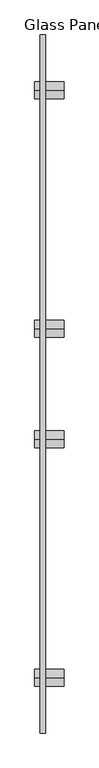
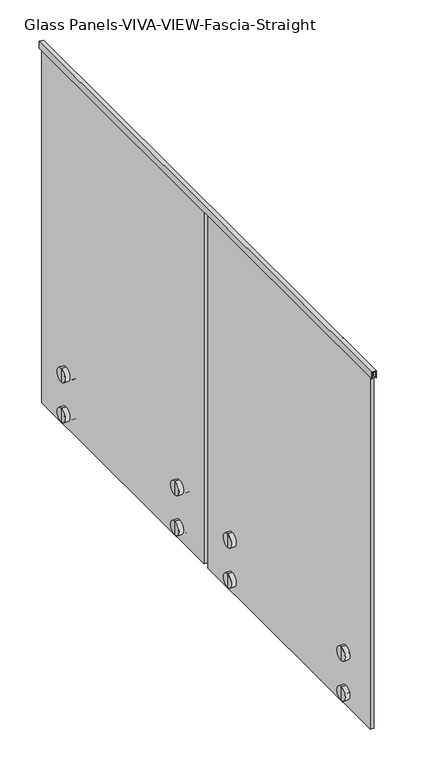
"""IFC4 building model written with IfcOpenShell, lengths in millimetres: railing geometry, Glass Panels-VIVA-VIEW-Fascia-Straight."""

from ifc_helpers import new_model, si_unit, frame, origin, place, context, project, spatial, polyline, circle_curve, outline, extrude, source, transform, mapped, element, save
from ifc_brep_helpers import plane_surface, cylinder_surface, advanced_brep


def glass_panels_viva_view_fascia_straight_b6d9fe15(model_context):
    return source(origin(), model_context, "Body", "SolidModel", [
        extrude(outline(polyline([(4140.2, 20983.1986652), (4140.2, 20967.3236652), (4114.8, 20967.3236652), (4114.8, 20968.9111652), (4138.6125, 20968.9111652), (4138.6125, 20981.6111652), (4114.8, 20981.6111652), (4114.8, 20983.1986652), (4140.2, 20983.1986652)])), frame((0.0, -1445.1241246, 0.0), z_axis=(0.0, 1.0, 0.0), x_axis=(0.0, 0.0, 1.0)), (0.0, 0.0, 1.0), 2082.8),
        advanced_brep(
        [(20951.4489592, -238.241078, 2794.0), (20951.4489592, -238.241078, 2819.4), (20951.4489592, -238.241078, 2844.8), (20968.9114592, -238.241078, 2794.0), (20968.9114592, -238.241078, 2844.8), (20968.9114592, -238.241078, 2813.685), (20968.9114592, -238.241078, 2825.115), (20981.6114592, -238.241078, 2813.685), (20981.6114592, -238.241078, 2825.115), (20981.6114592, -238.241078, 2794.0), (20981.6114592, -238.241078, 2844.8), (21038.7613122, -238.241078, 2794.0), (21038.7613122, -238.241078, 2844.8), (21038.7613122, -238.241078, 2819.4)],
        [
            (0, 1),
            (1, 2),
            (2, 0, circle_curve(frame((20951.4489592, -238.241078, 2819.4), z_axis=(-1.0, 0.0, 0.0), x_axis=(0.0, 0.0, 1.0)), 25.4)),
            (0, 2, circle_curve(frame((20951.4489592, -238.241078, 2819.4), z_axis=(-1.0, 0.0, 0.0), x_axis=(0.0, 0.0, 1.0)), 25.4)),
            (3, 0),
            (2, 4),
            (4, 3, circle_curve(frame((20968.9114592, -238.241078, 2819.4), z_axis=(-1.0, 0.0, 0.0), x_axis=(0.0, 0.0, 1.0)), 25.4)),
            (3, 4, circle_curve(frame((20968.9114592, -238.241078, 2819.4), z_axis=(-1.0, 0.0, 0.0), x_axis=(0.0, 0.0, 1.0)), 25.4)),
            (5, 3),
            (4, 6),
            (6, 5, circle_curve(frame((20968.9114592, -238.241078, 2819.4), z_axis=(-1.0, 0.0, 0.0), x_axis=(0.0, 0.0, 1.0)), 5.715)),
            (5, 6, circle_curve(frame((20968.9114592, -238.241078, 2819.4), z_axis=(-1.0, 0.0, 0.0), x_axis=(0.0, 0.0, 1.0)), 5.715)),
            (7, 5),
            (6, 8),
            (8, 7, circle_curve(frame((20981.6114592, -238.241078, 2819.4), z_axis=(-1.0, 0.0, 0.0), x_axis=(0.0, 0.0, 1.0)), 5.715)),
            (7, 8, circle_curve(frame((20981.6114592, -238.241078, 2819.4), z_axis=(-1.0, 0.0, 0.0), x_axis=(0.0, 0.0, 1.0)), 5.715)),
            (9, 7),
            (8, 10),
            (10, 9, circle_curve(frame((20981.6114592, -238.241078, 2819.4), z_axis=(-1.0, 0.0, 0.0), x_axis=(0.0, 0.0, 1.0)), 25.4)),
            (9, 10, circle_curve(frame((20981.6114592, -238.241078, 2819.4), z_axis=(-1.0, 0.0, 0.0), x_axis=(0.0, 0.0, 1.0)), 25.4)),
            (11, 9),
            (10, 12),
            (12, 11, circle_curve(frame((21038.7613122, -238.241078, 2819.4), z_axis=(-1.0, 0.0, 0.0), x_axis=(0.0, 0.0, 1.0)), 25.4)),
            (11, 12, circle_curve(frame((21038.7613122, -238.241078, 2819.4), z_axis=(-1.0, 0.0, 0.0), x_axis=(0.0, 0.0, 1.0)), 25.4)),
            (13, 11),
            (12, 13),
        ],
        [
            plane_surface(frame((20951.4489592, -238.241078, 2819.4), z_axis=(-1.0, 0.0, 0.0), x_axis=(0.0, 0.0, 1.0))),
            cylinder_surface(frame((20883.1863122, -238.241078, 2819.4), z_axis=(1.0, 0.0, 0.0), x_axis=(0.0, 0.0, 1.0)), 25.4),
            plane_surface(frame((20968.9114592, -238.241078, 2819.4), z_axis=(1.0, 0.0, 0.0), x_axis=(0.0, 0.0, 1.0))),
            cylinder_surface(frame((20883.1863122, -238.241078, 2819.4), z_axis=(1.0, 0.0, 0.0), x_axis=(0.0, 0.0, 1.0)), 5.715),
            plane_surface(frame((20981.6114592, -238.241078, 2819.4), z_axis=(-1.0, 0.0, 0.0), x_axis=(0.0, 0.0, 1.0))),
            plane_surface(frame((21038.7613122, -238.241078, 2819.4), z_axis=(1.0, 0.0, 0.0), x_axis=(0.0, 0.0, 1.0))),
        ],
        [
            (0, [[1, 2, 3]]),
            (0, [[-2, -1, 4]]),
            (1, [[5, -3, 6, 7]]),
            (1, [[-6, -4, -5, 8]]),
            (2, [[9, -7, 10, 11]]),
            (2, [[-10, -8, -9, 12]]),
            (3, [[13, -11, 14, 15]]),
            (3, [[-14, -12, -13, 16]]),
            (4, [[17, -15, 18, 19]]),
            (4, [[-18, -16, -17, 20]]),
            (1, [[21, -19, 22, 23]]),
            (1, [[-22, -20, -21, 24]]),
            (5, [[25, -23, 26]]),
            (5, [[-26, -24, -25]]),
        ],
    ),
        advanced_brep(
        [(20968.9114592, -238.241078, 2966.085), (20968.9114592, -238.241078, 2946.4), (20968.9114592, -238.241078, 2997.2), (20968.9114592, -238.241078, 2977.515), (20981.6114592, -238.241078, 2966.085), (20981.6114592, -238.241078, 2977.515), (20981.6114592, -238.241078, 2946.4), (20981.6114592, -238.241078, 2997.2), (21038.7613122, -238.241078, 2946.4), (21038.7613122, -238.241078, 2997.2), (21038.7613122, -238.241078, 2971.8), (20951.4489592, -238.241078, 2946.4), (20951.4489592, -238.241078, 2971.8), (20951.4489592, -238.241078, 2997.2)],
        [
            (0, 1),
            (1, 2, circle_curve(frame((20968.9114592, -238.241078, 2971.8), z_axis=(1.0, 0.0, 0.0), x_axis=(0.0, 0.0, 1.0)), 25.4)),
            (2, 3),
            (3, 0, circle_curve(frame((20968.9114592, -238.241078, 2971.8), z_axis=(-1.0, 0.0, 0.0), x_axis=(0.0, 0.0, 1.0)), 5.715)),
            (2, 1, circle_curve(frame((20968.9114592, -238.241078, 2971.8), z_axis=(1.0, 0.0, 0.0), x_axis=(0.0, 0.0, 1.0)), 25.4)),
            (0, 3, circle_curve(frame((20968.9114592, -238.241078, 2971.8), z_axis=(-1.0, 0.0, 0.0), x_axis=(0.0, 0.0, 1.0)), 5.715)),
            (4, 0),
            (3, 5),
            (5, 4, circle_curve(frame((20981.6114592, -238.241078, 2971.8), z_axis=(-1.0, 0.0, 0.0), x_axis=(0.0, 0.0, 1.0)), 5.715)),
            (4, 5, circle_curve(frame((20981.6114592, -238.241078, 2971.8), z_axis=(-1.0, 0.0, 0.0), x_axis=(0.0, 0.0, 1.0)), 5.715)),
            (6, 4),
            (5, 7),
            (7, 6, circle_curve(frame((20981.6114592, -238.241078, 2971.8), z_axis=(-1.0, 0.0, 0.0), x_axis=(0.0, 0.0, 1.0)), 25.4)),
            (6, 7, circle_curve(frame((20981.6114592, -238.241078, 2971.8), z_axis=(-1.0, 0.0, 0.0), x_axis=(0.0, 0.0, 1.0)), 25.4)),
            (8, 6),
            (7, 9),
            (9, 8, circle_curve(frame((21038.7613122, -238.241078, 2971.8), z_axis=(-1.0, 0.0, 0.0), x_axis=(0.0, 0.0, 1.0)), 25.4)),
            (8, 9, circle_curve(frame((21038.7613122, -238.241078, 2971.8), z_axis=(-1.0, 0.0, 0.0), x_axis=(0.0, 0.0, 1.0)), 25.4)),
            (10, 8),
            (9, 10),
            (11, 12),
            (12, 13),
            (13, 11, circle_curve(frame((20951.4489592, -238.241078, 2971.8), z_axis=(-1.0, 0.0, 0.0), x_axis=(0.0, 0.0, 1.0)), 25.4)),
            (11, 13, circle_curve(frame((20951.4489592, -238.241078, 2971.8), z_axis=(-1.0, 0.0, 0.0), x_axis=(0.0, 0.0, 1.0)), 25.4)),
            (1, 11),
            (13, 2),
        ],
        [
            plane_surface(frame((20968.9114592, -238.241078, 2971.8), z_axis=(1.0, 0.0, 0.0), x_axis=(0.0, 0.0, 1.0))),
            cylinder_surface(frame((20883.1863122, -238.241078, 2971.8), z_axis=(1.0, 0.0, 0.0), x_axis=(0.0, 0.0, 1.0)), 5.715),
            plane_surface(frame((20981.6114592, -238.241078, 2971.8), z_axis=(-1.0, 0.0, 0.0), x_axis=(0.0, 0.0, 1.0))),
            cylinder_surface(frame((20883.1863122, -238.241078, 2971.8), z_axis=(1.0, 0.0, 0.0), x_axis=(0.0, 0.0, 1.0)), 25.4),
            plane_surface(frame((21038.7613122, -238.241078, 2971.8), z_axis=(1.0, 0.0, 0.0), x_axis=(0.0, 0.0, 1.0))),
            plane_surface(frame((20951.4489592, -238.241078, 2971.8), z_axis=(-1.0, 0.0, 0.0), x_axis=(0.0, 0.0, 1.0))),
        ],
        [
            (0, [[1, 2, 3, 4]]),
            (0, [[-3, 5, -1, 6]]),
            (1, [[7, -4, 8, 9]]),
            (1, [[-8, -6, -7, 10]]),
            (2, [[11, -9, 12, 13]]),
            (2, [[-12, -10, -11, 14]]),
            (3, [[15, -13, 16, 17]]),
            (3, [[-16, -14, -15, 18]]),
            (4, [[19, -17, 20]]),
            (4, [[-20, -18, -19]]),
            (5, [[21, 22, 23]]),
            (5, [[-22, -21, 24]]),
            (3, [[25, -23, 26, -2]]),
            (3, [[-26, -24, -25, -5]]),
        ],
    ),
        advanced_brep(
        [(20951.4489592, 472.958922, 2794.0), (20951.4489592, 472.958922, 2819.4), (20951.4489592, 472.958922, 2844.8), (20968.9114592, 472.958922, 2794.0), (20968.9114592, 472.958922, 2844.8), (20968.9114592, 472.958922, 2813.685), (20968.9114592, 472.958922, 2825.115), (20981.6114592, 472.958922, 2813.685), (20981.6114592, 472.958922, 2825.115), (20981.6114592, 472.958922, 2794.0), (20981.6114592, 472.958922, 2844.8), (21038.7613122, 472.958922, 2794.0), (21038.7613122, 472.958922, 2844.8), (21038.7613122, 472.958922, 2819.4)],
        [
            (0, 1),
            (1, 2),
            (2, 0, circle_curve(frame((20951.4489592, 472.958922, 2819.4), z_axis=(-1.0, 0.0, 0.0), x_axis=(0.0, 0.0, 1.0)), 25.4)),
            (0, 2, circle_curve(frame((20951.4489592, 472.958922, 2819.4), z_axis=(-1.0, 0.0, 0.0), x_axis=(0.0, 0.0, 1.0)), 25.4)),
            (3, 0),
            (2, 4),
            (4, 3, circle_curve(frame((20968.9114592, 472.958922, 2819.4), z_axis=(-1.0, 0.0, 0.0), x_axis=(0.0, 0.0, 1.0)), 25.4)),
            (3, 4, circle_curve(frame((20968.9114592, 472.958922, 2819.4), z_axis=(-1.0, 0.0, 0.0), x_axis=(0.0, 0.0, 1.0)), 25.4)),
            (5, 3),
            (4, 6),
            (6, 5, circle_curve(frame((20968.9114592, 472.958922, 2819.4), z_axis=(-1.0, 0.0, 0.0), x_axis=(0.0, 0.0, 1.0)), 5.715)),
            (5, 6, circle_curve(frame((20968.9114592, 472.958922, 2819.4), z_axis=(-1.0, 0.0, 0.0), x_axis=(0.0, 0.0, 1.0)), 5.715)),
            (7, 5),
            (6, 8),
            (8, 7, circle_curve(frame((20981.6114592, 472.958922, 2819.4), z_axis=(-1.0, 0.0, 0.0), x_axis=(0.0, 0.0, 1.0)), 5.715)),
            (7, 8, circle_curve(frame((20981.6114592, 472.958922, 2819.4), z_axis=(-1.0, 0.0, 0.0), x_axis=(0.0, 0.0, 1.0)), 5.715)),
            (9, 7),
            (8, 10),
            (10, 9, circle_curve(frame((20981.6114592, 472.958922, 2819.4), z_axis=(-1.0, 0.0, 0.0), x_axis=(0.0, 0.0, 1.0)), 25.4)),
            (9, 10, circle_curve(frame((20981.6114592, 472.958922, 2819.4), z_axis=(-1.0, 0.0, 0.0), x_axis=(0.0, 0.0, 1.0)), 25.4)),
            (11, 9),
            (10, 12),
            (12, 11, circle_curve(frame((21038.7613122, 472.958922, 2819.4), z_axis=(-1.0, 0.0, 0.0), x_axis=(0.0, 0.0, 1.0)), 25.4)),
            (11, 12, circle_curve(frame((21038.7613122, 472.958922, 2819.4), z_axis=(-1.0, 0.0, 0.0), x_axis=(0.0, 0.0, 1.0)), 25.4)),
            (13, 11),
            (12, 13),
        ],
        [
            plane_surface(frame((20951.4489592, 472.958922, 2819.4), z_axis=(-1.0, 0.0, 0.0), x_axis=(0.0, 0.0, 1.0))),
            cylinder_surface(frame((20883.1863122, 472.958922, 2819.4), z_axis=(1.0, 0.0, 0.0), x_axis=(0.0, 0.0, 1.0)), 25.4),
            plane_surface(frame((20968.9114592, 472.958922, 2819.4), z_axis=(1.0, 0.0, 0.0), x_axis=(0.0, 0.0, 1.0))),
            cylinder_surface(frame((20883.1863122, 472.958922, 2819.4), z_axis=(1.0, 0.0, 0.0), x_axis=(0.0, 0.0, 1.0)), 5.715),
            plane_surface(frame((20981.6114592, 472.958922, 2819.4), z_axis=(-1.0, 0.0, 0.0), x_axis=(0.0, 0.0, 1.0))),
            plane_surface(frame((21038.7613122, 472.958922, 2819.4), z_axis=(1.0, 0.0, 0.0), x_axis=(0.0, 0.0, 1.0))),
        ],
        [
            (0, [[1, 2, 3]]),
            (0, [[-2, -1, 4]]),
            (1, [[5, -3, 6, 7]]),
            (1, [[-6, -4, -5, 8]]),
            (2, [[9, -7, 10, 11]]),
            (2, [[-10, -8, -9, 12]]),
            (3, [[13, -11, 14, 15]]),
            (3, [[-14, -12, -13, 16]]),
            (4, [[17, -15, 18, 19]]),
            (4, [[-18, -16, -17, 20]]),
            (1, [[21, -19, 22, 23]]),
            (1, [[-22, -20, -21, 24]]),
            (5, [[25, -23, 26]]),
            (5, [[-26, -24, -25]]),
        ],
    ),
        advanced_brep(
        [(20968.9114592, 472.958922, 2966.085), (20968.9114592, 472.958922, 2946.4), (20968.9114592, 472.958922, 2997.2), (20968.9114592, 472.958922, 2977.515), (20981.6114592, 472.958922, 2966.085), (20981.6114592, 472.958922, 2977.515), (20981.6114592, 472.958922, 2946.4), (20981.6114592, 472.958922, 2997.2), (21038.7613122, 472.958922, 2946.4), (21038.7613122, 472.958922, 2997.2), (21038.7613122, 472.958922, 2971.8), (20951.4489592, 472.958922, 2946.4), (20951.4489592, 472.958922, 2971.8), (20951.4489592, 472.958922, 2997.2)],
        [
            (0, 1),
            (1, 2, circle_curve(frame((20968.9114592, 472.958922, 2971.8), z_axis=(1.0, 0.0, 0.0), x_axis=(0.0, 0.0, 1.0)), 25.4)),
            (2, 3),
            (3, 0, circle_curve(frame((20968.9114592, 472.958922, 2971.8), z_axis=(-1.0, 0.0, 0.0), x_axis=(0.0, 0.0, 1.0)), 5.715)),
            (2, 1, circle_curve(frame((20968.9114592, 472.958922, 2971.8), z_axis=(1.0, 0.0, 0.0), x_axis=(0.0, 0.0, 1.0)), 25.4)),
            (0, 3, circle_curve(frame((20968.9114592, 472.958922, 2971.8), z_axis=(-1.0, 0.0, 0.0), x_axis=(0.0, 0.0, 1.0)), 5.715)),
            (4, 0),
            (3, 5),
            (5, 4, circle_curve(frame((20981.6114592, 472.958922, 2971.8), z_axis=(-1.0, 0.0, 0.0), x_axis=(0.0, 0.0, 1.0)), 5.715)),
            (4, 5, circle_curve(frame((20981.6114592, 472.958922, 2971.8), z_axis=(-1.0, 0.0, 0.0), x_axis=(0.0, 0.0, 1.0)), 5.715)),
            (6, 4),
            (5, 7),
            (7, 6, circle_curve(frame((20981.6114592, 472.958922, 2971.8), z_axis=(-1.0, 0.0, 0.0), x_axis=(0.0, 0.0, 1.0)), 25.4)),
            (6, 7, circle_curve(frame((20981.6114592, 472.958922, 2971.8), z_axis=(-1.0, 0.0, 0.0), x_axis=(0.0, 0.0, 1.0)), 25.4)),
            (8, 6),
            (7, 9),
            (9, 8, circle_curve(frame((21038.7613122, 472.958922, 2971.8), z_axis=(-1.0, 0.0, 0.0), x_axis=(0.0, 0.0, 1.0)), 25.4)),
            (8, 9, circle_curve(frame((21038.7613122, 472.958922, 2971.8), z_axis=(-1.0, 0.0, 0.0), x_axis=(0.0, 0.0, 1.0)), 25.4)),
            (10, 8),
            (9, 10),
            (11, 12),
            (12, 13),
            (13, 11, circle_curve(frame((20951.4489592, 472.958922, 2971.8), z_axis=(-1.0, 0.0, 0.0), x_axis=(0.0, 0.0, 1.0)), 25.4)),
            (11, 13, circle_curve(frame((20951.4489592, 472.958922, 2971.8), z_axis=(-1.0, 0.0, 0.0), x_axis=(0.0, 0.0, 1.0)), 25.4)),
            (1, 11),
            (13, 2),
        ],
        [
            plane_surface(frame((20968.9114592, 472.958922, 2971.8), z_axis=(1.0, 0.0, 0.0), x_axis=(0.0, 0.0, 1.0))),
            cylinder_surface(frame((20883.1863122, 472.958922, 2971.8), z_axis=(1.0, 0.0, 0.0), x_axis=(0.0, 0.0, 1.0)), 5.715),
            plane_surface(frame((20981.6114592, 472.958922, 2971.8), z_axis=(-1.0, 0.0, 0.0), x_axis=(0.0, 0.0, 1.0))),
            cylinder_surface(frame((20883.1863122, 472.958922, 2971.8), z_axis=(1.0, 0.0, 0.0), x_axis=(0.0, 0.0, 1.0)), 25.4),
            plane_surface(frame((21038.7613122, 472.958922, 2971.8), z_axis=(1.0, 0.0, 0.0), x_axis=(0.0, 0.0, 1.0))),
            plane_surface(frame((20951.4489592, 472.958922, 2971.8), z_axis=(-1.0, 0.0, 0.0), x_axis=(0.0, 0.0, 1.0))),
        ],
        [
            (0, [[1, 2, 3, 4]]),
            (0, [[-3, 5, -1, 6]]),
            (1, [[7, -4, 8, 9]]),
            (1, [[-8, -6, -7, 10]]),
            (2, [[11, -9, 12, 13]]),
            (2, [[-12, -10, -11, 14]]),
            (3, [[15, -13, 16, 17]]),
            (3, [[-16, -14, -15, 18]]),
            (4, [[19, -17, 20]]),
            (4, [[-20, -18, -19]]),
            (5, [[21, 22, 23]]),
            (5, [[-22, -21, 24]]),
            (3, [[25, -23, 26, -2]]),
            (3, [[-26, -24, -25, -5]]),
        ],
    ),
        extrude(outline(polyline([(20981.6111652, -390.641078), (20968.9111652, -390.641078), (20968.9111652, 625.358922), (20981.6111652, 625.358922), (20981.6111652, -390.641078)])), frame((0.0, 0.0, 2768.6), z_axis=(0.0, 0.0, 1.0), x_axis=(1.0, 0.0, 0.0)), (0.0, 0.0, 1.0), 1370.0125),
        advanced_brep(
        [(20951.4489592, -1279.641078, 2794.0), (20951.4489592, -1279.641078, 2819.4), (20951.4489592, -1279.641078, 2844.8), (20968.9114592, -1279.641078, 2794.0), (20968.9114592, -1279.641078, 2844.8), (20968.9114592, -1279.641078, 2813.685), (20968.9114592, -1279.641078, 2825.115), (20981.6114592, -1279.641078, 2813.685), (20981.6114592, -1279.641078, 2825.115), (20981.6114592, -1279.641078, 2794.0), (20981.6114592, -1279.641078, 2844.8), (21038.7613122, -1279.641078, 2794.0), (21038.7613122, -1279.641078, 2844.8), (21038.7613122, -1279.641078, 2819.4)],
        [
            (0, 1),
            (1, 2),
            (2, 0, circle_curve(frame((20951.4489592, -1279.641078, 2819.4), z_axis=(-1.0, 0.0, 0.0), x_axis=(0.0, 0.0, 1.0)), 25.4)),
            (0, 2, circle_curve(frame((20951.4489592, -1279.641078, 2819.4), z_axis=(-1.0, 0.0, 0.0), x_axis=(0.0, 0.0, 1.0)), 25.4)),
            (3, 0),
            (2, 4),
            (4, 3, circle_curve(frame((20968.9114592, -1279.641078, 2819.4), z_axis=(-1.0, 0.0, 0.0), x_axis=(0.0, 0.0, 1.0)), 25.4)),
            (3, 4, circle_curve(frame((20968.9114592, -1279.641078, 2819.4), z_axis=(-1.0, 0.0, 0.0), x_axis=(0.0, 0.0, 1.0)), 25.4)),
            (5, 3),
            (4, 6),
            (6, 5, circle_curve(frame((20968.9114592, -1279.641078, 2819.4), z_axis=(-1.0, 0.0, 0.0), x_axis=(0.0, 0.0, 1.0)), 5.715)),
            (5, 6, circle_curve(frame((20968.9114592, -1279.641078, 2819.4), z_axis=(-1.0, 0.0, 0.0), x_axis=(0.0, 0.0, 1.0)), 5.715)),
            (7, 5),
            (6, 8),
            (8, 7, circle_curve(frame((20981.6114592, -1279.641078, 2819.4), z_axis=(-1.0, 0.0, 0.0), x_axis=(0.0, 0.0, 1.0)), 5.715)),
            (7, 8, circle_curve(frame((20981.6114592, -1279.641078, 2819.4), z_axis=(-1.0, 0.0, 0.0), x_axis=(0.0, 0.0, 1.0)), 5.715)),
            (9, 7),
            (8, 10),
            (10, 9, circle_curve(frame((20981.6114592, -1279.641078, 2819.4), z_axis=(-1.0, 0.0, 0.0), x_axis=(0.0, 0.0, 1.0)), 25.4)),
            (9, 10, circle_curve(frame((20981.6114592, -1279.641078, 2819.4), z_axis=(-1.0, 0.0, 0.0), x_axis=(0.0, 0.0, 1.0)), 25.4)),
            (11, 9),
            (10, 12),
            (12, 11, circle_curve(frame((21038.7613122, -1279.641078, 2819.4), z_axis=(-1.0, 0.0, 0.0), x_axis=(0.0, 0.0, 1.0)), 25.4)),
            (11, 12, circle_curve(frame((21038.7613122, -1279.641078, 2819.4), z_axis=(-1.0, 0.0, 0.0), x_axis=(0.0, 0.0, 1.0)), 25.4)),
            (13, 11),
            (12, 13),
        ],
        [
            plane_surface(frame((20951.4489592, -1279.641078, 2819.4), z_axis=(-1.0, 0.0, 0.0), x_axis=(0.0, 0.0, 1.0))),
            cylinder_surface(frame((20883.1863122, -1279.641078, 2819.4), z_axis=(1.0, 0.0, 0.0), x_axis=(0.0, 0.0, 1.0)), 25.4),
            plane_surface(frame((20968.9114592, -1279.641078, 2819.4), z_axis=(1.0, 0.0, 0.0), x_axis=(0.0, 0.0, 1.0))),
            cylinder_surface(frame((20883.1863122, -1279.641078, 2819.4), z_axis=(1.0, 0.0, 0.0), x_axis=(0.0, 0.0, 1.0)), 5.715),
            plane_surface(frame((20981.6114592, -1279.641078, 2819.4), z_axis=(-1.0, 0.0, 0.0), x_axis=(0.0, 0.0, 1.0))),
            plane_surface(frame((21038.7613122, -1279.641078, 2819.4), z_axis=(1.0, 0.0, 0.0), x_axis=(0.0, 0.0, 1.0))),
        ],
        [
            (0, [[1, 2, 3]]),
            (0, [[-2, -1, 4]]),
            (1, [[5, -3, 6, 7]]),
            (1, [[-6, -4, -5, 8]]),
            (2, [[9, -7, 10, 11]]),
            (2, [[-10, -8, -9, 12]]),
            (3, [[13, -11, 14, 15]]),
            (3, [[-14, -12, -13, 16]]),
            (4, [[17, -15, 18, 19]]),
            (4, [[-18, -16, -17, 20]]),
            (1, [[21, -19, 22, 23]]),
            (1, [[-22, -20, -21, 24]]),
            (5, [[25, -23, 26]]),
            (5, [[-26, -24, -25]]),
        ],
    ),
        advanced_brep(
        [(20968.9114592, -1279.641078, 2966.085), (20968.9114592, -1279.641078, 2946.4), (20968.9114592, -1279.641078, 2997.2), (20968.9114592, -1279.641078, 2977.515), (20981.6114592, -1279.641078, 2966.085), (20981.6114592, -1279.641078, 2977.515), (20981.6114592, -1279.641078, 2946.4), (20981.6114592, -1279.641078, 2997.2), (21038.7613122, -1279.641078, 2946.4), (21038.7613122, -1279.641078, 2997.2), (21038.7613122, -1279.641078, 2971.8), (20951.4489592, -1279.641078, 2946.4), (20951.4489592, -1279.641078, 2971.8), (20951.4489592, -1279.641078, 2997.2)],
        [
            (0, 1),
            (1, 2, circle_curve(frame((20968.9114592, -1279.641078, 2971.8), z_axis=(1.0, 0.0, 0.0), x_axis=(0.0, 0.0, 1.0)), 25.4)),
            (2, 3),
            (3, 0, circle_curve(frame((20968.9114592, -1279.641078, 2971.8), z_axis=(-1.0, 0.0, 0.0), x_axis=(0.0, 0.0, 1.0)), 5.715)),
            (2, 1, circle_curve(frame((20968.9114592, -1279.641078, 2971.8), z_axis=(1.0, 0.0, 0.0), x_axis=(0.0, 0.0, 1.0)), 25.4)),
            (0, 3, circle_curve(frame((20968.9114592, -1279.641078, 2971.8), z_axis=(-1.0, 0.0, 0.0), x_axis=(0.0, 0.0, 1.0)), 5.715)),
            (4, 0),
            (3, 5),
            (5, 4, circle_curve(frame((20981.6114592, -1279.641078, 2971.8), z_axis=(-1.0, 0.0, 0.0), x_axis=(0.0, 0.0, 1.0)), 5.715)),
            (4, 5, circle_curve(frame((20981.6114592, -1279.641078, 2971.8), z_axis=(-1.0, 0.0, 0.0), x_axis=(0.0, 0.0, 1.0)), 5.715)),
            (6, 4),
            (5, 7),
            (7, 6, circle_curve(frame((20981.6114592, -1279.641078, 2971.8), z_axis=(-1.0, 0.0, 0.0), x_axis=(0.0, 0.0, 1.0)), 25.4)),
            (6, 7, circle_curve(frame((20981.6114592, -1279.641078, 2971.8), z_axis=(-1.0, 0.0, 0.0), x_axis=(0.0, 0.0, 1.0)), 25.4)),
            (8, 6),
            (7, 9),
            (9, 8, circle_curve(frame((21038.7613122, -1279.641078, 2971.8), z_axis=(-1.0, 0.0, 0.0), x_axis=(0.0, 0.0, 1.0)), 25.4)),
            (8, 9, circle_curve(frame((21038.7613122, -1279.641078, 2971.8), z_axis=(-1.0, 0.0, 0.0), x_axis=(0.0, 0.0, 1.0)), 25.4)),
            (10, 8),
            (9, 10),
            (11, 12),
            (12, 13),
            (13, 11, circle_curve(frame((20951.4489592, -1279.641078, 2971.8), z_axis=(-1.0, 0.0, 0.0), x_axis=(0.0, 0.0, 1.0)), 25.4)),
            (11, 13, circle_curve(frame((20951.4489592, -1279.641078, 2971.8), z_axis=(-1.0, 0.0, 0.0), x_axis=(0.0, 0.0, 1.0)), 25.4)),
            (1, 11),
            (13, 2),
        ],
        [
            plane_surface(frame((20968.9114592, -1279.641078, 2971.8), z_axis=(1.0, 0.0, 0.0), x_axis=(0.0, 0.0, 1.0))),
            cylinder_surface(frame((20883.1863122, -1279.641078, 2971.8), z_axis=(1.0, 0.0, 0.0), x_axis=(0.0, 0.0, 1.0)), 5.715),
            plane_surface(frame((20981.6114592, -1279.641078, 2971.8), z_axis=(-1.0, 0.0, 0.0), x_axis=(0.0, 0.0, 1.0))),
            cylinder_surface(frame((20883.1863122, -1279.641078, 2971.8), z_axis=(1.0, 0.0, 0.0), x_axis=(0.0, 0.0, 1.0)), 25.4),
            plane_surface(frame((21038.7613122, -1279.641078, 2971.8), z_axis=(1.0, 0.0, 0.0), x_axis=(0.0, 0.0, 1.0))),
            plane_surface(frame((20951.4489592, -1279.641078, 2971.8), z_axis=(-1.0, 0.0, 0.0), x_axis=(0.0, 0.0, 1.0))),
        ],
        [
            (0, [[1, 2, 3, 4]]),
            (0, [[-3, 5, -1, 6]]),
            (1, [[7, -4, 8, 9]]),
            (1, [[-8, -6, -7, 10]]),
            (2, [[11, -9, 12, 13]]),
            (2, [[-12, -10, -11, 14]]),
            (3, [[15, -13, 16, 17]]),
            (3, [[-16, -14, -15, 18]]),
            (4, [[19, -17, 20]]),
            (4, [[-20, -18, -19]]),
            (5, [[21, 22, 23]]),
            (5, [[-22, -21, 24]]),
            (3, [[25, -23, 26, -2]]),
            (3, [[-26, -24, -25, -5]]),
        ],
    ),
        advanced_brep(
        [(20951.4489592, -568.441078, 2794.0), (20951.4489592, -568.441078, 2819.4), (20951.4489592, -568.441078, 2844.8), (20968.9114592, -568.441078, 2794.0), (20968.9114592, -568.441078, 2844.8), (20968.9114592, -568.441078, 2813.685), (20968.9114592, -568.441078, 2825.115), (20981.6114592, -568.441078, 2813.685), (20981.6114592, -568.441078, 2825.115), (20981.6114592, -568.441078, 2794.0), (20981.6114592, -568.441078, 2844.8), (21038.7613122, -568.441078, 2794.0), (21038.7613122, -568.441078, 2844.8), (21038.7613122, -568.441078, 2819.4)],
        [
            (0, 1),
            (1, 2),
            (2, 0, circle_curve(frame((20951.4489592, -568.441078, 2819.4), z_axis=(-1.0, 0.0, 0.0), x_axis=(0.0, 0.0, 1.0)), 25.4)),
            (0, 2, circle_curve(frame((20951.4489592, -568.441078, 2819.4), z_axis=(-1.0, 0.0, 0.0), x_axis=(0.0, 0.0, 1.0)), 25.4)),
            (3, 0),
            (2, 4),
            (4, 3, circle_curve(frame((20968.9114592, -568.441078, 2819.4), z_axis=(-1.0, 0.0, 0.0), x_axis=(0.0, 0.0, 1.0)), 25.4)),
            (3, 4, circle_curve(frame((20968.9114592, -568.441078, 2819.4), z_axis=(-1.0, 0.0, 0.0), x_axis=(0.0, 0.0, 1.0)), 25.4)),
            (5, 3),
            (4, 6),
            (6, 5, circle_curve(frame((20968.9114592, -568.441078, 2819.4), z_axis=(-1.0, 0.0, 0.0), x_axis=(0.0, 0.0, 1.0)), 5.715)),
            (5, 6, circle_curve(frame((20968.9114592, -568.441078, 2819.4), z_axis=(-1.0, 0.0, 0.0), x_axis=(0.0, 0.0, 1.0)), 5.715)),
            (7, 5),
            (6, 8),
            (8, 7, circle_curve(frame((20981.6114592, -568.441078, 2819.4), z_axis=(-1.0, 0.0, 0.0), x_axis=(0.0, 0.0, 1.0)), 5.715)),
            (7, 8, circle_curve(frame((20981.6114592, -568.441078, 2819.4), z_axis=(-1.0, 0.0, 0.0), x_axis=(0.0, 0.0, 1.0)), 5.715)),
            (9, 7),
            (8, 10),
            (10, 9, circle_curve(frame((20981.6114592, -568.441078, 2819.4), z_axis=(-1.0, 0.0, 0.0), x_axis=(0.0, 0.0, 1.0)), 25.4)),
            (9, 10, circle_curve(frame((20981.6114592, -568.441078, 2819.4), z_axis=(-1.0, 0.0, 0.0), x_axis=(0.0, 0.0, 1.0)), 25.4)),
            (11, 9),
            (10, 12),
            (12, 11, circle_curve(frame((21038.7613122, -568.441078, 2819.4), z_axis=(-1.0, 0.0, 0.0), x_axis=(0.0, 0.0, 1.0)), 25.4)),
            (11, 12, circle_curve(frame((21038.7613122, -568.441078, 2819.4), z_axis=(-1.0, 0.0, 0.0), x_axis=(0.0, 0.0, 1.0)), 25.4)),
            (13, 11),
            (12, 13),
        ],
        [
            plane_surface(frame((20951.4489592, -568.441078, 2819.4), z_axis=(-1.0, 0.0, 0.0), x_axis=(0.0, 0.0, 1.0))),
            cylinder_surface(frame((20883.1863122, -568.441078, 2819.4), z_axis=(1.0, 0.0, 0.0), x_axis=(0.0, 0.0, 1.0)), 25.4),
            plane_surface(frame((20968.9114592, -568.441078, 2819.4), z_axis=(1.0, 0.0, 0.0), x_axis=(0.0, 0.0, 1.0))),
            cylinder_surface(frame((20883.1863122, -568.441078, 2819.4), z_axis=(1.0, 0.0, 0.0), x_axis=(0.0, 0.0, 1.0)), 5.715),
            plane_surface(frame((20981.6114592, -568.441078, 2819.4), z_axis=(-1.0, 0.0, 0.0), x_axis=(0.0, 0.0, 1.0))),
            plane_surface(frame((21038.7613122, -568.441078, 2819.4), z_axis=(1.0, 0.0, 0.0), x_axis=(0.0, 0.0, 1.0))),
        ],
        [
            (0, [[1, 2, 3]]),
            (0, [[-2, -1, 4]]),
            (1, [[5, -3, 6, 7]]),
            (1, [[-6, -4, -5, 8]]),
            (2, [[9, -7, 10, 11]]),
            (2, [[-10, -8, -9, 12]]),
            (3, [[13, -11, 14, 15]]),
            (3, [[-14, -12, -13, 16]]),
            (4, [[17, -15, 18, 19]]),
            (4, [[-18, -16, -17, 20]]),
            (1, [[21, -19, 22, 23]]),
            (1, [[-22, -20, -21, 24]]),
            (5, [[25, -23, 26]]),
            (5, [[-26, -24, -25]]),
        ],
    ),
        advanced_brep(
        [(20968.9114592, -568.441078, 2966.085), (20968.9114592, -568.441078, 2946.4), (20968.9114592, -568.441078, 2997.2), (20968.9114592, -568.441078, 2977.515), (20981.6114592, -568.441078, 2966.085), (20981.6114592, -568.441078, 2977.515), (20981.6114592, -568.441078, 2946.4), (20981.6114592, -568.441078, 2997.2), (21038.7613122, -568.441078, 2946.4), (21038.7613122, -568.441078, 2997.2), (21038.7613122, -568.441078, 2971.8), (20951.4489592, -568.441078, 2946.4), (20951.4489592, -568.441078, 2971.8), (20951.4489592, -568.441078, 2997.2)],
        [
            (0, 1),
            (1, 2, circle_curve(frame((20968.9114592, -568.441078, 2971.8), z_axis=(1.0, 0.0, 0.0), x_axis=(0.0, 0.0, 1.0)), 25.4)),
            (2, 3),
            (3, 0, circle_curve(frame((20968.9114592, -568.441078, 2971.8), z_axis=(-1.0, 0.0, 0.0), x_axis=(0.0, 0.0, 1.0)), 5.715)),
            (2, 1, circle_curve(frame((20968.9114592, -568.441078, 2971.8), z_axis=(1.0, 0.0, 0.0), x_axis=(0.0, 0.0, 1.0)), 25.4)),
            (0, 3, circle_curve(frame((20968.9114592, -568.441078, 2971.8), z_axis=(-1.0, 0.0, 0.0), x_axis=(0.0, 0.0, 1.0)), 5.715)),
            (4, 0),
            (3, 5),
            (5, 4, circle_curve(frame((20981.6114592, -568.441078, 2971.8), z_axis=(-1.0, 0.0, 0.0), x_axis=(0.0, 0.0, 1.0)), 5.715)),
            (4, 5, circle_curve(frame((20981.6114592, -568.441078, 2971.8), z_axis=(-1.0, 0.0, 0.0), x_axis=(0.0, 0.0, 1.0)), 5.715)),
            (6, 4),
            (5, 7),
            (7, 6, circle_curve(frame((20981.6114592, -568.441078, 2971.8), z_axis=(-1.0, 0.0, 0.0), x_axis=(0.0, 0.0, 1.0)), 25.4)),
            (6, 7, circle_curve(frame((20981.6114592, -568.441078, 2971.8), z_axis=(-1.0, 0.0, 0.0), x_axis=(0.0, 0.0, 1.0)), 25.4)),
            (8, 6),
            (7, 9),
            (9, 8, circle_curve(frame((21038.7613122, -568.441078, 2971.8), z_axis=(-1.0, 0.0, 0.0), x_axis=(0.0, 0.0, 1.0)), 25.4)),
            (8, 9, circle_curve(frame((21038.7613122, -568.441078, 2971.8), z_axis=(-1.0, 0.0, 0.0), x_axis=(0.0, 0.0, 1.0)), 25.4)),
            (10, 8),
            (9, 10),
            (11, 12),
            (12, 13),
            (13, 11, circle_curve(frame((20951.4489592, -568.441078, 2971.8), z_axis=(-1.0, 0.0, 0.0), x_axis=(0.0, 0.0, 1.0)), 25.4)),
            (11, 13, circle_curve(frame((20951.4489592, -568.441078, 2971.8), z_axis=(-1.0, 0.0, 0.0), x_axis=(0.0, 0.0, 1.0)), 25.4)),
            (1, 11),
            (13, 2),
        ],
        [
            plane_surface(frame((20968.9114592, -568.441078, 2971.8), z_axis=(1.0, 0.0, 0.0), x_axis=(0.0, 0.0, 1.0))),
            cylinder_surface(frame((20883.1863122, -568.441078, 2971.8), z_axis=(1.0, 0.0, 0.0), x_axis=(0.0, 0.0, 1.0)), 5.715),
            plane_surface(frame((20981.6114592, -568.441078, 2971.8), z_axis=(-1.0, 0.0, 0.0), x_axis=(0.0, 0.0, 1.0))),
            cylinder_surface(frame((20883.1863122, -568.441078, 2971.8), z_axis=(1.0, 0.0, 0.0), x_axis=(0.0, 0.0, 1.0)), 25.4),
            plane_surface(frame((21038.7613122, -568.441078, 2971.8), z_axis=(1.0, 0.0, 0.0), x_axis=(0.0, 0.0, 1.0))),
            plane_surface(frame((20951.4489592, -568.441078, 2971.8), z_axis=(-1.0, 0.0, 0.0), x_axis=(0.0, 0.0, 1.0))),
        ],
        [
            (0, [[1, 2, 3, 4]]),
            (0, [[-3, 5, -1, 6]]),
            (1, [[7, -4, 8, 9]]),
            (1, [[-8, -6, -7, 10]]),
            (2, [[11, -9, 12, 13]]),
            (2, [[-12, -10, -11, 14]]),
            (3, [[15, -13, 16, 17]]),
            (3, [[-16, -14, -15, 18]]),
            (4, [[19, -17, 20]]),
            (4, [[-20, -18, -19]]),
            (5, [[21, 22, 23]]),
            (5, [[-22, -21, 24]]),
            (3, [[25, -23, 26, -2]]),
            (3, [[-26, -24, -25, -5]]),
        ],
    ),
        extrude(outline(polyline([(20981.6111652, -1432.041078), (20968.9111652, -1432.041078), (20968.9111652, -416.041078), (20981.6111652, -416.041078), (20981.6111652, -1432.041078)])), frame((0.0, 0.0, 2768.6), z_axis=(0.0, 0.0, 1.0), x_axis=(1.0, 0.0, 0.0)), (0.0, 0.0, 1.0), 1370.0125),
    ])


if __name__ == "__main__":
    model = new_model("IFC4")
    model_context = context("Model", 3, world=origin())
    ifc_project = project(units=[si_unit("LENGTHUNIT", "METRE", prefix="MILLI")], contexts=[model_context])
    site = spatial("IfcSite", under=ifc_project)
    building = spatial("IfcBuilding", under=site)
    placement = place(None, origin())
    glass_panels_viva_view_fascia_straight_shape = glass_panels_viva_view_fascia_straight_b6d9fe15(model_context)
    element("IfcRailing", 1, ObjectType="Glass Panels-VIVA-VIEW-Fascia-Straight", at=placement, inside=building, context=model_context, shape_type="MappedRepresentation", body=[
        mapped(glass_panels_viva_view_fascia_straight_shape, transform((0.0, 0.0, 0.0), x_axis=(1.0, 0.0, 0.0), y_axis=(0.0, 1.0, 0.0), z_axis=(0.0, 0.0, 1.0))),
    ])
    save(model, "model.ifc")
